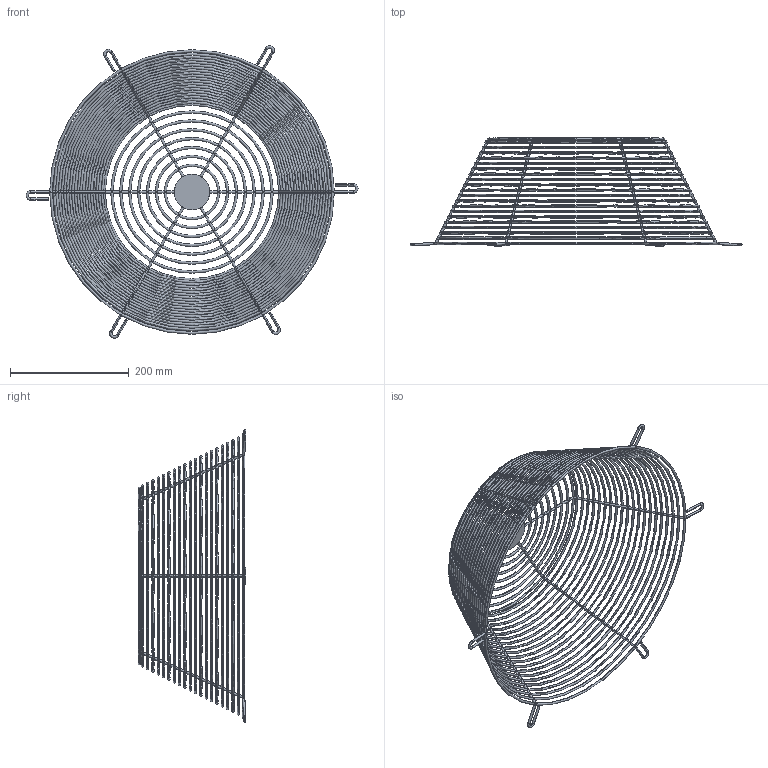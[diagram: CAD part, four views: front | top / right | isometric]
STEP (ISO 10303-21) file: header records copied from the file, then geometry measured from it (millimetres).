
FILE_DESCRIPTION(('STEP AP214'),'1');
FILE_NAME('accessory_5138824700.stp','2017-10-09T10:18:10',('TraceParts'),('TraceParts S.A.'),'Spatial InterOp 3D',' ',' ');
FILE_SCHEMA(('automotive_design'));
Length unit declared in the file: millimetre
Products named in the file (1): accessory_5138824700
Bounding box: 560 x 182 x 493.12 mm (x, y, z)
Volume: 403918 mm3; surface area: 394823.2 mm2
Topology: 1 solids, 1 shells, 306 faces, 1762 edges, 1102 vertices
Faces by surface type: torus 164, cylinder 92, plane 38, sphere 12
Entity records: 38757 total; most frequent: CARTESIAN_POINT 24094, ORIENTED_EDGE 3476, DIRECTION 1848, EDGE_CURVE 1738, VERTEX_POINT 1102, B_SPLINE_CURVE_WITH_KNOTS 984, AXIS2_PLACEMENT_3D 787, CIRCLE 456
